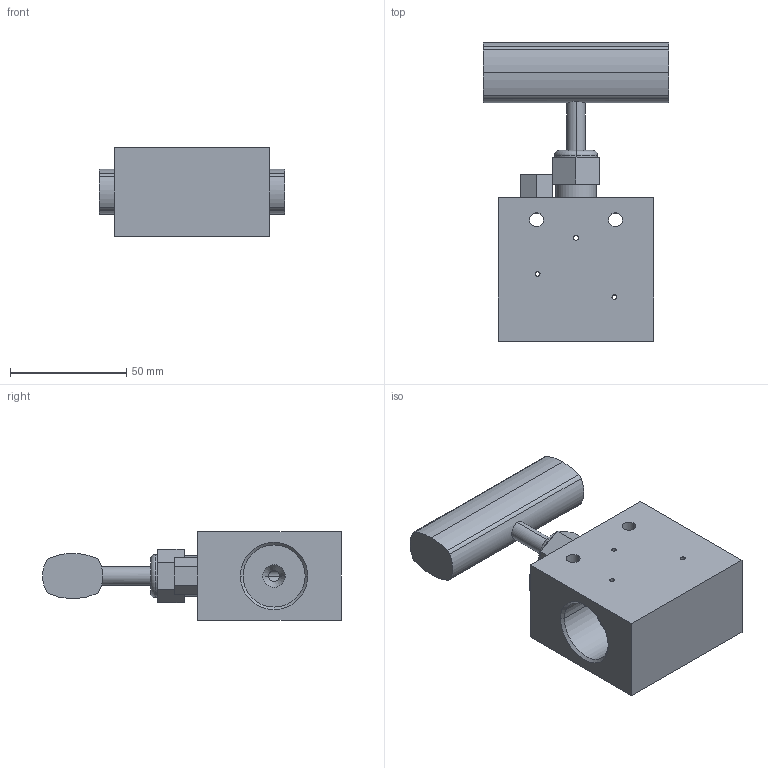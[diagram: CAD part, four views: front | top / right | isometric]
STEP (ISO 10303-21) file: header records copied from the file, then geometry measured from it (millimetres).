
FILE_DESCRIPTION (( 'STEP AP203' ), '1' );
FILE_NAME ('NV30VS09-S-00-00.STEP', '2023-02-27T07:13:29', ( 'USER' ), ( '' ), 'SwSTEP 2.0', 'SolidWorks 2020', '' );
FILE_SCHEMA (( 'CONFIG_CONTROL_DESIGN' ));
Length unit declared in the file: millimetre
Products named in the file (1): NV30VS09-S-00-00
Bounding box: 80 x 128.68 x 38 mm (x, y, z)
Volume: 175752.9 mm3; surface area: 33073.3 mm2
Topology: 1 solids, 1 shells, 95 faces, 235 edges, 148 vertices
Faces by surface type: cylinder 47, plane 32, cone 14, torus 2
Entity records: 3326 total; most frequent: CARTESIAN_POINT 911, DIRECTION 503, ORIENTED_EDGE 470, EDGE_CURVE 235, AXIS2_PLACEMENT_3D 192, VERTEX_POINT 148, EDGE_LOOP 121, VECTOR 119
